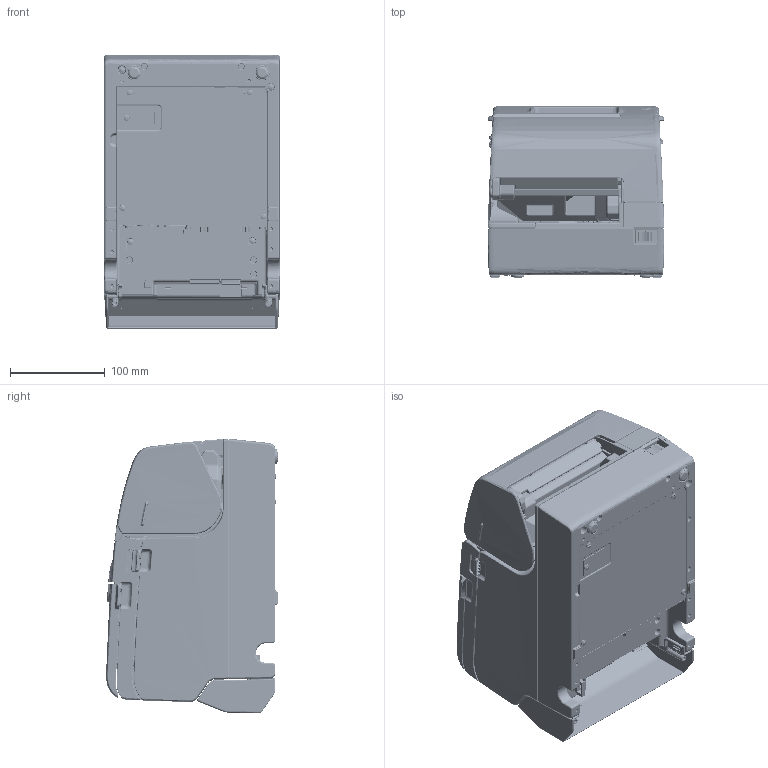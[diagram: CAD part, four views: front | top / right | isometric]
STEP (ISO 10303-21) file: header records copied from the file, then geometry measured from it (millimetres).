
FILE_DESCRIPTION((''),'2;1');
FILE_NAME('APP_SW0001','2025-07-14T16:26:30',('5012938'),(''),'CREO PARAMETRIC BY PTC INC, 2022281','CREO PARAMETRIC BY PTC INC, 2022281','');
FILE_SCHEMA(('AUTOMOTIVE_DESIGN { 1 0 10303 214 1 1 1 1 }'));
Length unit declared in the file: millimetre
Products named in the file (1): APP_SW0001
Bounding box: 186 x 181.05 x 289.59 mm (x, y, z)
Surface area: 982920.5 mm2 (no closed solid volume)
Topology: 0 solids, 190 shells, 10483 faces, 32699 edges, 22019 vertices
Faces by surface type: plane 5363, cylinder 2977, bspline 1187, cone 386, torus 356, sphere 139, extrusion 75
Entity records: 505617 total; most frequent: CARTESIAN_POINT 227175, ORIENTED_EDGE 59148, DIRECTION 53102, EDGE_CURVE 32685, VERTEX_POINT 22019, VECTOR 19682, LINE 19607, AXIS2_PLACEMENT_3D 16710
